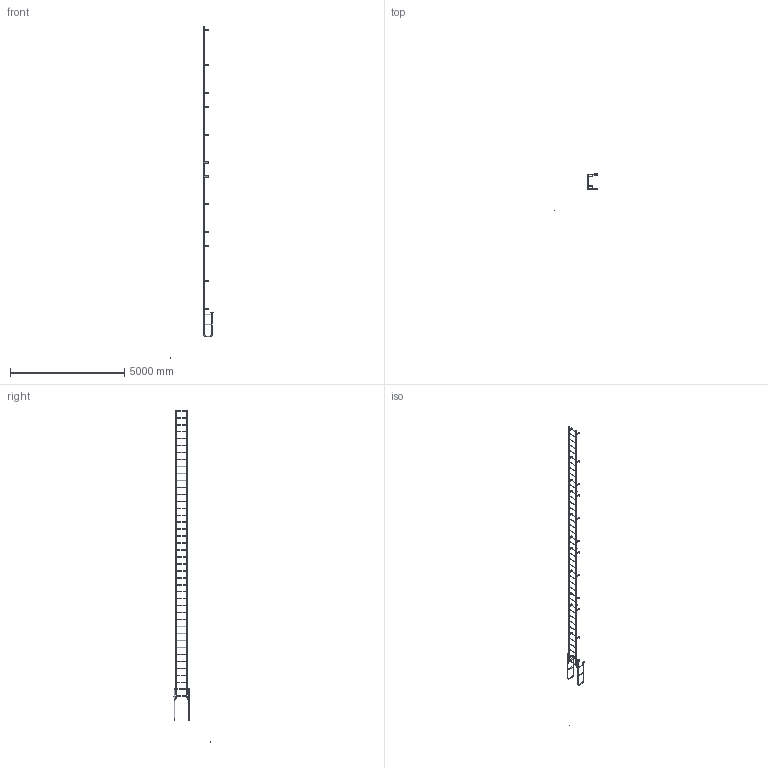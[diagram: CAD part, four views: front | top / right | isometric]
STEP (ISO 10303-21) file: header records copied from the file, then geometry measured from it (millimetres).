
FILE_DESCRIPTION(/* description */ (''),/* implementation_level */ '2;1');
FILE_NAME(/* name */ 'P:\MIKEL & KAREN\3570388 F42W SIMPLIFIED PART.stp',/* time_stamp */ '2018-07-02T16:20:38-04:00',/* author */ ('stephanie'),/* organization */ (''),/* preprocessor_version */ 'ST-DEVELOPER v16.1',/* originating_system */ 'Autodesk Inventor 2016',/* authorisation */ '');
FILE_SCHEMA (('AUTOMOTIVE_DESIGN { 1 0 10303 214 3 1 1 }'));
Length unit declared in the file: centimetre
Products named in the file (1): 3570388 F42W SIMPLIFIED PART
Bounding box: 1863.02 x 1584.8 x 14543.59 mm (x, y, z)
Volume: 23139916.6 mm3; surface area: 7722068.4 mm2
Topology: 51 solids, 51 shells, 797 faces, 2129 edges, 1406 vertices
Faces by surface type: plane 458, cylinder 331, torus 8
Full cylindrical faces by diameter (mm): 0.254 x1, 10.319 x4, 14.287 x30, 19.05 x42, 22.098 x10, 22.225 x84, 25.4 x10
Entity records: 24634 total; most frequent: CARTESIAN_POINT 4308, DIRECTION 4114, ORIENTED_EDGE 3652, EDGE_CURVE 1822, AXIS2_PLACEMENT_3D 1510, VERTEX_POINT 1288, EDGE_LOOP 1228, LINE 1094
